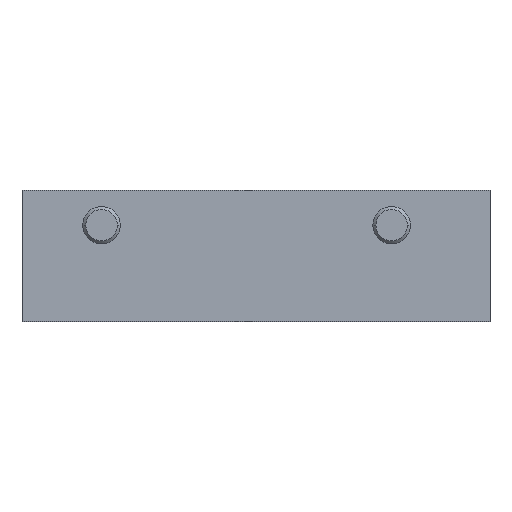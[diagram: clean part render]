
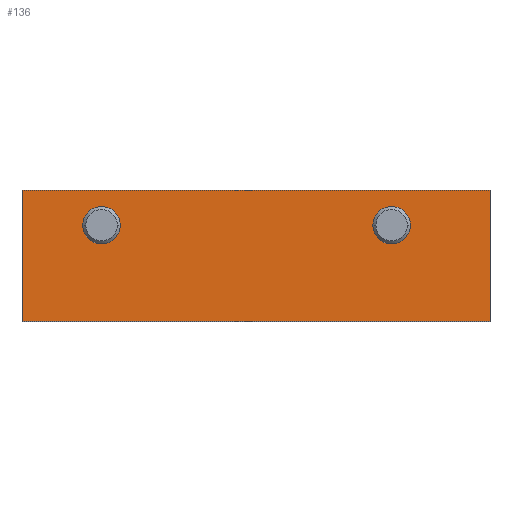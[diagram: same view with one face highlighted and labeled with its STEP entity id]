
A CAD part, top view. The second image highlights one B-rep face of the part: STEP entity #136.
In plain terms, the highlighted planar face has unit normal (0, 0, 1).
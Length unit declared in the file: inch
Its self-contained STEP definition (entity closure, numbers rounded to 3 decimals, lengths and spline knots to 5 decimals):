
#5=DIRECTION('',(0.,1.,0.));
#6=VECTOR('',#5,0.875);
#7=CARTESIAN_POINT('',(1.5625,-0.4375,0.195));
#8=LINE('',#7,#6);
#25=DIRECTION('',(-1.,0.,0.));
#26=VECTOR('',#25,3.125);
#27=CARTESIAN_POINT('',(1.5625,0.4375,0.195));
#28=LINE('',#27,#26);
#29=DIRECTION('',(-1.,0.,0.));
#30=VECTOR('',#29,3.125);
#31=CARTESIAN_POINT('',(1.5625,-0.4375,0.195));
#32=LINE('',#31,#30);
#45=DIRECTION('',(0.,1.,0.));
#46=VECTOR('',#45,0.875);
#47=CARTESIAN_POINT('',(-1.5625,-0.4375,0.195));
#48=LINE('',#47,#46);
#50=CARTESIAN_POINT('',(1.5625,-0.4375,0.195));
#52=VERTEX_POINT('',#50);
#53=CARTESIAN_POINT('',(1.5625,0.4375,0.195));
#54=VERTEX_POINT('',#53);
#58=CARTESIAN_POINT('',(-1.5625,-0.4375,0.195));
#60=VERTEX_POINT('',#58);
#61=CARTESIAN_POINT('',(-1.5625,0.4375,0.195));
#62=VERTEX_POINT('',#61);
#124=CARTESIAN_POINT('',(1.5625,-0.4375,0.195));
#125=DIRECTION('',(0.,0.,1.));
#126=DIRECTION('',(0.,1.,0.));
#127=AXIS2_PLACEMENT_3D('',#124,#125,#126);
#128=PLANE('',#127);
#129=ORIENTED_EDGE('',*,*,#72,.F.);
#130=ORIENTED_EDGE('',*,*,#91,.T.);
#132=ORIENTED_EDGE('',*,*,#131,.T.);
#133=ORIENTED_EDGE('',*,*,#116,.F.);
#134=EDGE_LOOP('',(#129,#130,#132,#133));
#135=FACE_OUTER_BOUND('',#134,.F.);
#136=ADVANCED_FACE('',(#135),#128,.T.);
#72=EDGE_CURVE('',#52,#54,#8,.T.);
#91=EDGE_CURVE('',#52,#60,#32,.T.);
#116=EDGE_CURVE('',#54,#62,#28,.T.);
#131=EDGE_CURVE('',#60,#62,#48,.T.);
